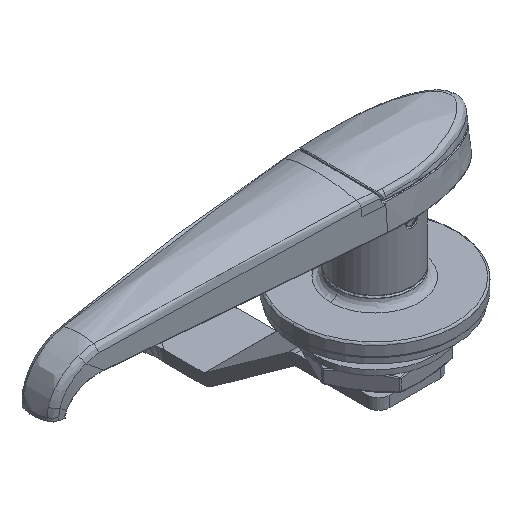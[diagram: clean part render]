
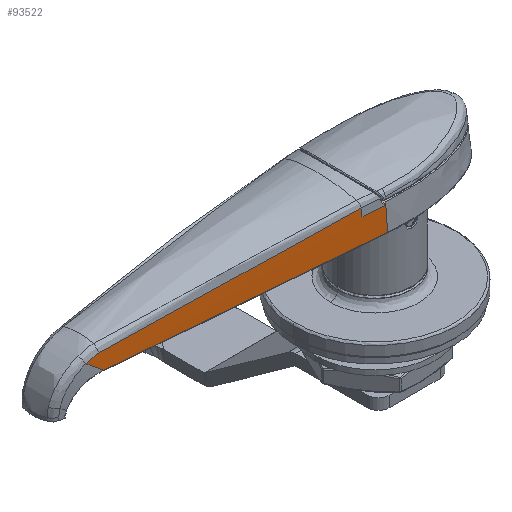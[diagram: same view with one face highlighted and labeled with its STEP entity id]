
A CAD part, isometric view. The second image highlights one B-rep face of the part: STEP entity #93522.
In plain terms, the highlighted planar face has unit normal (-0.086, -0.992, 0.092).
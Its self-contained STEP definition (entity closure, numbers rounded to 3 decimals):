
#42 = VERTEX_POINT ( 'NONE', #37735 ) ;
#452 = CARTESIAN_POINT ( 'NONE',  ( -81.541, -5.495, 22.686 ) ) ;
#460 = CARTESIAN_POINT ( 'NONE',  ( -14.649, -11.093, 24.764 ) ) ;
#731 = CARTESIAN_POINT ( 'NONE',  ( -8.921, -11.585, 24.813 ) ) ;
#2282 = VECTOR ( 'NONE', #116154, 1000. ) ;
#2424 = CARTESIAN_POINT ( 'NONE',  ( -12.748, -11.273, 24.6 ) ) ;
#3285 = CARTESIAN_POINT ( 'NONE',  ( -14.711, -10.912, 26.651 ) ) ;
#4148 = VECTOR ( 'NONE', #113511, 1000. ) ;
#5678 = ORIENTED_EDGE ( 'NONE', *, *, #69690, .T. ) ;
#6636 = EDGE_CURVE ( 'NONE', #119712, #15707, #69214, .T. ) ;
#6684 = CARTESIAN_POINT ( 'NONE',  ( -84.93, -5.289, 21.75 ) ) ;
#8381 = ORIENTED_EDGE ( 'NONE', *, *, #67285, .T. ) ;
#8419 = CARTESIAN_POINT ( 'NONE',  ( -83.855, -5.339, 22.213 ) ) ;
#11138 = B_SPLINE_CURVE_WITH_KNOTS ( 'NONE', 3,
 ( #36576, #65909, #460, #103168 ),
 .UNSPECIFIED., .F., .F.,
 ( 4, 4 ),
 ( 0.759, 1. ),
 .UNSPECIFIED. ) ;
#11769 = EDGE_CURVE ( 'NONE', #55911, #66860, #24741, .T. ) ;
#12480 = B_SPLINE_CURVE_WITH_KNOTS ( 'NONE', 3,
 ( #15154, #23741, #80567, #108672, #98289, #31710 ),
 .UNSPECIFIED., .F., .F.,
 ( 4, 2, 4 ),
 ( 0., 0.474, 0.949 ),
 .UNSPECIFIED. ) ;
#13823 = LINE ( 'NONE', #76272, #4148 ) ;
#14905 = DIRECTION ( 'NONE',  ( -0.086, -0.992, 0.092 ) ) ;
#15154 = CARTESIAN_POINT ( 'NONE',  ( -81.541, -5.495, 22.686 ) ) ;
#15206 = VERTEX_POINT ( 'NONE', #84906 ) ;
#15707 = VERTEX_POINT ( 'NONE', #731 ) ;
#16389 = LINE ( 'NONE', #25612, #60219 ) ;
#16467 = EDGE_CURVE ( 'NONE', #87740, #73044, #12480, .T. ) ;
#17711 = CARTESIAN_POINT ( 'NONE',  ( -8.959, -11.602, 24.6 ) ) ;
#17730 = EDGE_CURVE ( 'NONE', #62700, #119712, #65236, .T. ) ;
#22276 = CARTESIAN_POINT ( 'NONE',  ( -8.961, -11.542, 25.236 ) ) ;
#23741 = CARTESIAN_POINT ( 'NONE',  ( -71.345, -6.249, 24.063 ) ) ;
#24741 = B_SPLINE_CURVE_WITH_KNOTS ( 'NONE', 3,
 ( #115224, #22276, #107820, #82140 ),
 .UNSPECIFIED., .F., .F.,
 ( 4, 4 ),
 ( 0., 1. ),
 .UNSPECIFIED. ) ;
#25612 = CARTESIAN_POINT ( 'NONE',  ( -94.647, -4.114, 25.326 ) ) ;
#25925 = PLANE ( 'NONE',  #85584 ) ;
#26782 = CARTESIAN_POINT ( 'NONE',  ( -9.002, -11.53, 25.326 ) ) ;
#27999 = VERTEX_POINT ( 'NONE', #108476 ) ;
#30534 = CARTESIAN_POINT ( 'NONE',  ( -8.959, -11.602, 24.6 ) ) ;
#31412 = CARTESIAN_POINT ( 'NONE',  ( -14.66, -11.062, 25.093 ) ) ;
#31710 = CARTESIAN_POINT ( 'NONE',  ( -14.711, -10.912, 26.651 ) ) ;
#32079 = B_SPLINE_CURVE_WITH_KNOTS ( 'NONE', 3,
 ( #3285, #60162, #87023, #31412 ),
 .UNSPECIFIED., .F., .F.,
 ( 4, 4 ),
 ( 0., 0.759 ),
 .UNSPECIFIED. ) ;
#33873 = CARTESIAN_POINT ( 'NONE',  ( -94.716, -4.781, 18.1 ) ) ;
#34862 = CARTESIAN_POINT ( 'NONE',  ( -8.934, -11.59, 24.742 ) ) ;
#35819 = CARTESIAN_POINT ( 'NONE',  ( -14.643, -11.109, 24.6 ) ) ;
#36576 = CARTESIAN_POINT ( 'NONE',  ( -14.66, -11.062, 25.093 ) ) ;
#37043 = VECTOR ( 'NONE', #47494, 1000. ) ;
#37735 = CARTESIAN_POINT ( 'NONE',  ( -84.93, -5.289, 21.75 ) ) ;
#39064 = CARTESIAN_POINT ( 'NONE',  ( -8.878, -11.566, 25.056 ) ) ;
#41340 = ORIENTED_EDGE ( 'NONE', *, *, #6636, .F. ) ;
#41980 = EDGE_CURVE ( 'NONE', #73044, #15206, #32079, .T. ) ;
#43060 = FACE_OUTER_BOUND ( 'NONE', #76298, .T. ) ;
#45862 = CARTESIAN_POINT ( 'NONE',  ( -8.946, -11.596, 24.671 ) ) ;
#47052 = EDGE_CURVE ( 'NONE', #15707, #66860, #98497, .T. ) ;
#47494 = DIRECTION ( 'NONE',  ( 0.01, 0.092, 0.996 ) ) ;
#48678 = EDGE_CURVE ( 'NONE', #60957, #55911, #16389, .T. ) ;
#49189 = CARTESIAN_POINT ( 'NONE',  ( -8.907, -11.579, 24.894 ) ) ;
#52665 = EDGE_CURVE ( 'NONE', #87740, #42, #99732, .T. ) ;
#55911 = VERTEX_POINT ( 'NONE', #26782 ) ;
#59147 = ORIENTED_EDGE ( 'NONE', *, *, #52665, .T. ) ;
#59533 = CARTESIAN_POINT ( 'NONE',  ( -8.663, -12.233, 18.1 ) ) ;
#59806 = ORIENTED_EDGE ( 'NONE', *, *, #17730, .F. ) ;
#60162 = CARTESIAN_POINT ( 'NONE',  ( -14.694, -10.963, 26.128 ) ) ;
#60219 = VECTOR ( 'NONE', #81209, 1000. ) ;
#60957 = VERTEX_POINT ( 'NONE', #102693 ) ;
#62700 = VERTEX_POINT ( 'NONE', #35819 ) ;
#63246 = DIRECTION ( 'NONE',  ( 0.996, -0.086, 0. ) ) ;
#65236 = B_SPLINE_CURVE_WITH_KNOTS ( 'NONE', 3,
 ( #68480, #2424, #83305, #30534 ),
 .UNSPECIFIED., .F., .F.,
 ( 4, 4 ),
 ( 0., 1. ),
 .UNSPECIFIED. ) ;
#65909 = CARTESIAN_POINT ( 'NONE',  ( -14.654, -11.078, 24.929 ) ) ;
#66512 = CARTESIAN_POINT ( 'NONE',  ( -84.93, -5.289, 21.75 ) ) ;
#66860 = VERTEX_POINT ( 'NONE', #39064 ) ;
#67285 = EDGE_CURVE ( 'NONE', #27999, #60957, #77880, .T. ) ;
#68480 = CARTESIAN_POINT ( 'NONE',  ( -14.643, -11.109, 24.6 ) ) ;
#69214 = B_SPLINE_CURVE_WITH_KNOTS ( 'NONE', 3,
 ( #17711, #45862, #34862, #74017 ),
 .UNSPECIFIED., .F., .F.,
 ( 4, 4 ),
 ( 0., 0.466 ),
 .UNSPECIFIED. ) ;
#69690 = EDGE_CURVE ( 'NONE', #120451, #27999, #13823, .T. ) ;
#71001 = CARTESIAN_POINT ( 'NONE',  ( -14.711, -10.912, 26.651 ) ) ;
#73044 = VERTEX_POINT ( 'NONE', #71001 ) ;
#74017 = CARTESIAN_POINT ( 'NONE',  ( -8.921, -11.585, 24.813 ) ) ;
#76272 = CARTESIAN_POINT ( 'NONE',  ( -94.713, -4.751, 18.426 ) ) ;
#76298 = EDGE_LOOP ( 'NONE', ( #113382, #95988, #59147, #94812, #5678, #8381, #89115, #81826, #76640, #41340, #59806, #87087 ) ) ;
#76640 = ORIENTED_EDGE ( 'NONE', *, *, #47052, .F. ) ;
#76709 = CARTESIAN_POINT ( 'NONE',  ( -8.878, -11.566, 25.056 ) ) ;
#77880 = LINE ( 'NONE', #59533, #37043 ) ;
#79450 = EDGE_CURVE ( 'NONE', #42, #120451, #97221, .T. ) ;
#79476 = CARTESIAN_POINT ( 'NONE',  ( -80.776, -5.958, 18.426 ) ) ;
#80567 = CARTESIAN_POINT ( 'NONE',  ( -60.681, -7.072, 25.144 ) ) ;
#81209 = DIRECTION ( 'NONE',  ( -0.996, 0.086, 0. ) ) ;
#81826 = ORIENTED_EDGE ( 'NONE', *, *, #11769, .T. ) ;
#82140 = CARTESIAN_POINT ( 'NONE',  ( -8.878, -11.566, 25.056 ) ) ;
#83305 = CARTESIAN_POINT ( 'NONE',  ( -10.854, -11.437, 24.6 ) ) ;
#84906 = CARTESIAN_POINT ( 'NONE',  ( -14.66, -11.062, 25.093 ) ) ;
#85584 = AXIS2_PLACEMENT_3D ( 'NONE', #33873, #14905, #63246 ) ;
#86440 = CARTESIAN_POINT ( 'NONE',  ( -8.893, -11.572, 24.975 ) ) ;
#87023 = CARTESIAN_POINT ( 'NONE',  ( -14.677, -11.012, 25.61 ) ) ;
#87087 = ORIENTED_EDGE ( 'NONE', *, *, #104006, .F. ) ;
#87740 = VERTEX_POINT ( 'NONE', #88387 ) ;
#88387 = CARTESIAN_POINT ( 'NONE',  ( -81.541, -5.495, 22.686 ) ) ;
#89115 = ORIENTED_EDGE ( 'NONE', *, *, #48678, .T. ) ;
#93522 = ADVANCED_FACE ( 'NONE', ( #43060 ), #25925, .T. ) ;
#94812 = ORIENTED_EDGE ( 'NONE', *, *, #79450, .T. ) ;
#95988 = ORIENTED_EDGE ( 'NONE', *, *, #16467, .F. ) ;
#96426 = CARTESIAN_POINT ( 'NONE',  ( -8.959, -11.602, 24.6 ) ) ;
#97221 = LINE ( 'NONE', #6684, #2282 ) ;
#98289 = CARTESIAN_POINT ( 'NONE',  ( -26.787, -9.849, 26.842 ) ) ;
#98497 = B_SPLINE_CURVE_WITH_KNOTS ( 'NONE', 3,
 ( #104208, #49189, #86440, #76709 ),
 .UNSPECIFIED., .F., .F.,
 ( 4, 4 ),
 ( 0.466, 1. ),
 .UNSPECIFIED. ) ;
#99732 = B_SPLINE_CURVE_WITH_KNOTS ( 'NONE', 3,
 ( #452, #104346, #8419, #66512 ),
 .UNSPECIFIED., .F., .F.,
 ( 4, 4 ),
 ( 0., 1. ),
 .UNSPECIFIED. ) ;
#102693 = CARTESIAN_POINT ( 'NONE',  ( -8.593, -11.565, 25.326 ) ) ;
#103168 = CARTESIAN_POINT ( 'NONE',  ( -14.643, -11.109, 24.6 ) ) ;
#104006 = EDGE_CURVE ( 'NONE', #15206, #62700, #11138, .T. ) ;
#104208 = CARTESIAN_POINT ( 'NONE',  ( -8.921, -11.585, 24.813 ) ) ;
#104346 = CARTESIAN_POINT ( 'NONE',  ( -82.725, -5.407, 22.525 ) ) ;
#107820 = CARTESIAN_POINT ( 'NONE',  ( -8.92, -11.554, 25.146 ) ) ;
#108476 = CARTESIAN_POINT ( 'NONE',  ( -8.66, -12.203, 18.426 ) ) ;
#108672 = CARTESIAN_POINT ( 'NONE',  ( -38.402, -8.872, 26.534 ) ) ;
#113382 = ORIENTED_EDGE ( 'NONE', *, *, #41980, .F. ) ;
#113511 = DIRECTION ( 'NONE',  ( 0.996, -0.086, 0. ) ) ;
#115224 = CARTESIAN_POINT ( 'NONE',  ( -9.002, -11.53, 25.326 ) ) ;
#116154 = DIRECTION ( 'NONE',  ( 0.775, -0.125, -0.62 ) ) ;
#119712 = VERTEX_POINT ( 'NONE', #96426 ) ;
#120451 = VERTEX_POINT ( 'NONE', #79476 ) ;
